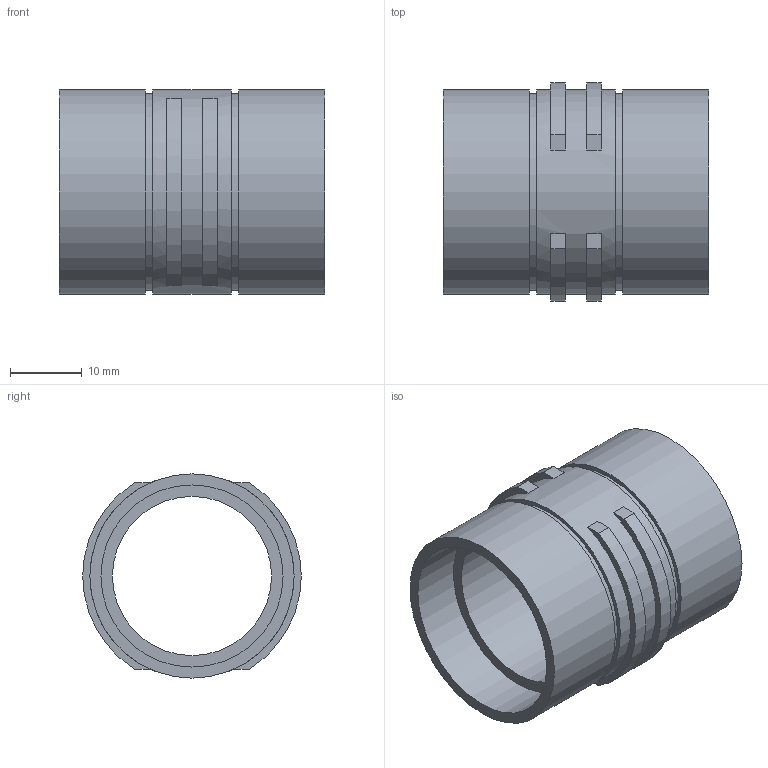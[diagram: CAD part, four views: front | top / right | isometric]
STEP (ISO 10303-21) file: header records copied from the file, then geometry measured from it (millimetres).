
FILE_DESCRIPTION( ( 'Unknown' ), '1' );
FILE_NAME( '//Sv02/01_社内情報/103_技術部/012_図面/図面/電子カタログ-3D/電子カタログ-3D元ファイル(par)/70_3D電子カタログ/01_U/インチ/70-25.4U-P.stp', 'Unknown', ( 'Unknown' ), ( 'Unknown' ), 'XStep 1.0', 'Unknown', ' ' );
FILE_SCHEMA( ( 'CONFIG_CONTROL_DESIGN' ) );
Length unit declared in the file: millimetre
Products named in the file (1): 1
Bounding box: 37 x 30.5 x 28.5 mm (x, y, z)
Volume: 7761.1 mm3; surface area: 7006.5 mm2
Topology: 1 solids, 1 shells, 36 faces, 72 edges, 48 vertices
Faces by surface type: plane 24, cylinder 12
Full cylindrical faces by diameter (mm): 22.2 x1, 25.4 x2, 27.35 x2, 28.5 x3
Entity records: 956 total; most frequent: DIRECTION 170, CARTESIAN_POINT 149, ORIENTED_EDGE 128, AXIS2_PLACEMENT_3D 69, EDGE_CURVE 64, EDGE_LOOP 56, VERTEX_POINT 48, FACE_OUTER_BOUND 44
